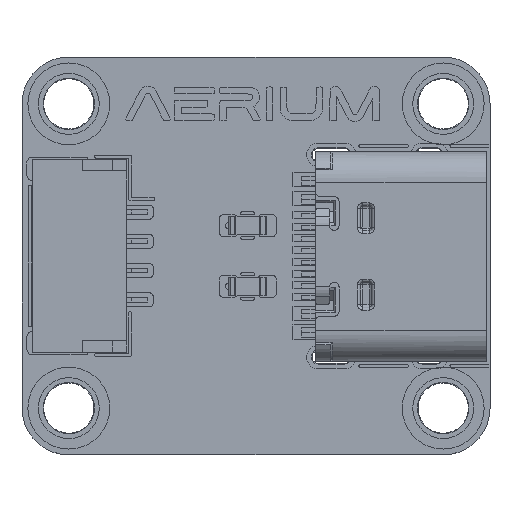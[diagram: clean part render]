
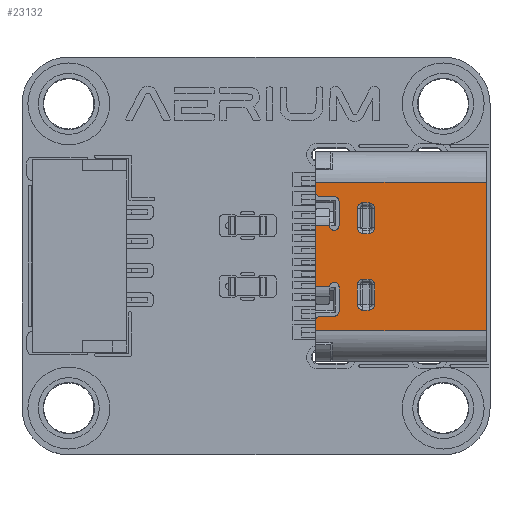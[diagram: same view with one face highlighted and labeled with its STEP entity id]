
A CAD part, top view. The second image highlights one B-rep face of the part: STEP entity #23132.
In plain terms, the highlighted planar face has unit normal (0, 0, 1).
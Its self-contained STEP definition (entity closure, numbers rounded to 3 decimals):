
#170=FACE_BOUND('',#3337,.T.);
#171=FACE_BOUND('',#3338,.T.);
#763=CIRCLE('',#24712,0.2);
#764=CIRCLE('',#24713,0.2);
#765=CIRCLE('',#24714,0.2);
#766=CIRCLE('',#24715,0.2);
#767=CIRCLE('',#24716,0.2);
#768=CIRCLE('',#24717,0.2);
#769=CIRCLE('',#24718,0.24);
#770=CIRCLE('',#24719,0.24);
#771=CIRCLE('',#24720,0.24);
#772=CIRCLE('',#24721,0.24);
#773=CIRCLE('',#24722,0.24);
#774=CIRCLE('',#24723,0.24);
#775=CIRCLE('',#24724,0.24);
#776=CIRCLE('',#24725,0.24);
#2078=FACE_OUTER_BOUND('',#3336,.T.);
#3336=EDGE_LOOP('',(#17137,#17138,#17139,#17140,#17141,#17142,#17143,#17144,
#17145,#17146,#17147,#17148,#17149,#17150,#17151,#17152,#17153,#17154));
#3337=EDGE_LOOP('',(#17155,#17156,#17157,#17158,#17159,#17160,#17161,#17162));
#3338=EDGE_LOOP('',(#17163,#17164,#17165,#17166,#17167,#17168,#17169,#17170));
#5002=LINE('',#34419,#7691);
#5081=LINE('',#34713,#7770);
#5083=LINE('',#34723,#7772);
#5084=LINE('',#34725,#7773);
#5085=LINE('',#34727,#7774);
#5086=LINE('',#34731,#7775);
#5087=LINE('',#34735,#7776);
#5088=LINE('',#34739,#7777);
#5089=LINE('',#34741,#7778);
#5090=LINE('',#34743,#7779);
#5091=LINE('',#34747,#7780);
#5092=LINE('',#34750,#7781);
#5093=LINE('',#34753,#7782);
#5094=LINE('',#34757,#7783);
#5095=LINE('',#34761,#7784);
#5096=LINE('',#34765,#7785);
#5097=LINE('',#34769,#7786);
#5098=LINE('',#34773,#7787);
#5099=LINE('',#34777,#7788);
#5100=LINE('',#34781,#7789);
#7691=VECTOR('',#27594,1.);
#7770=VECTOR('',#27859,1.);
#7772=VECTOR('',#27869,1.);
#7773=VECTOR('',#27870,1.);
#7774=VECTOR('',#27871,1.);
#7775=VECTOR('',#27874,1.);
#7776=VECTOR('',#27877,1.);
#7777=VECTOR('',#27880,1.);
#7778=VECTOR('',#27881,1.);
#7779=VECTOR('',#27882,1.);
#7780=VECTOR('',#27885,1.);
#7781=VECTOR('',#27888,1.);
#7782=VECTOR('',#27889,1.);
#7783=VECTOR('',#27892,1.);
#7784=VECTOR('',#27895,1.);
#7785=VECTOR('',#27898,1.);
#7786=VECTOR('',#27901,1.);
#7787=VECTOR('',#27904,1.);
#7788=VECTOR('',#27907,1.);
#7789=VECTOR('',#27910,1.);
#10205=VERTEX_POINT('',#34416);
#10206=VERTEX_POINT('',#34418);
#10320=VERTEX_POINT('',#34712);
#10323=VERTEX_POINT('',#34720);
#10324=VERTEX_POINT('',#34721);
#10325=VERTEX_POINT('',#34724);
#10326=VERTEX_POINT('',#34726);
#10327=VERTEX_POINT('',#34728);
#10328=VERTEX_POINT('',#34730);
#10329=VERTEX_POINT('',#34732);
#10330=VERTEX_POINT('',#34734);
#10331=VERTEX_POINT('',#34736);
#10332=VERTEX_POINT('',#34738);
#10333=VERTEX_POINT('',#34740);
#10334=VERTEX_POINT('',#34742);
#10335=VERTEX_POINT('',#34744);
#10336=VERTEX_POINT('',#34746);
#10337=VERTEX_POINT('',#34748);
#10338=VERTEX_POINT('',#34751);
#10339=VERTEX_POINT('',#34752);
#10340=VERTEX_POINT('',#34754);
#10341=VERTEX_POINT('',#34756);
#10342=VERTEX_POINT('',#34758);
#10343=VERTEX_POINT('',#34760);
#10344=VERTEX_POINT('',#34762);
#10345=VERTEX_POINT('',#34764);
#10346=VERTEX_POINT('',#34767);
#10347=VERTEX_POINT('',#34768);
#10348=VERTEX_POINT('',#34770);
#10349=VERTEX_POINT('',#34772);
#10350=VERTEX_POINT('',#34774);
#10351=VERTEX_POINT('',#34776);
#10352=VERTEX_POINT('',#34778);
#10353=VERTEX_POINT('',#34780);
#12818=EDGE_CURVE('',#10206,#10205,#5002,.T.);
#12963=EDGE_CURVE('',#10320,#10206,#5081,.T.);
#12967=EDGE_CURVE('',#10323,#10324,#763,.T.);
#12968=EDGE_CURVE('',#10324,#10320,#5083,.T.);
#12969=EDGE_CURVE('',#10205,#10325,#5084,.T.);
#12970=EDGE_CURVE('',#10325,#10326,#5085,.T.);
#12971=EDGE_CURVE('',#10326,#10327,#764,.T.);
#12972=EDGE_CURVE('',#10327,#10328,#5086,.T.);
#12973=EDGE_CURVE('',#10329,#10328,#765,.T.);
#12974=EDGE_CURVE('',#10329,#10330,#5087,.T.);
#12975=EDGE_CURVE('',#10331,#10330,#766,.T.);
#12976=EDGE_CURVE('',#10331,#10332,#5088,.T.);
#12977=EDGE_CURVE('',#10332,#10333,#5089,.T.);
#12978=EDGE_CURVE('',#10334,#10333,#5090,.T.);
#12979=EDGE_CURVE('',#10335,#10334,#767,.T.);
#12980=EDGE_CURVE('',#10336,#10335,#5091,.T.);
#12981=EDGE_CURVE('',#10337,#10336,#768,.T.);
#12982=EDGE_CURVE('',#10323,#10337,#5092,.T.);
#12983=EDGE_CURVE('',#10338,#10339,#5093,.T.);
#12984=EDGE_CURVE('',#10339,#10340,#769,.T.);
#12985=EDGE_CURVE('',#10340,#10341,#5094,.T.);
#12986=EDGE_CURVE('',#10341,#10342,#770,.T.);
#12987=EDGE_CURVE('',#10342,#10343,#5095,.T.);
#12988=EDGE_CURVE('',#10343,#10344,#771,.T.);
#12989=EDGE_CURVE('',#10344,#10345,#5096,.T.);
#12990=EDGE_CURVE('',#10338,#10345,#772,.T.);
#12991=EDGE_CURVE('',#10346,#10347,#5097,.T.);
#12992=EDGE_CURVE('',#10347,#10348,#773,.T.);
#12993=EDGE_CURVE('',#10348,#10349,#5098,.T.);
#12994=EDGE_CURVE('',#10349,#10350,#774,.T.);
#12995=EDGE_CURVE('',#10350,#10351,#5099,.T.);
#12996=EDGE_CURVE('',#10351,#10352,#775,.T.);
#12997=EDGE_CURVE('',#10352,#10353,#5100,.T.);
#12998=EDGE_CURVE('',#10346,#10353,#776,.T.);
#17137=ORIENTED_EDGE('',*,*,#12967,.T.);
#17138=ORIENTED_EDGE('',*,*,#12968,.T.);
#17139=ORIENTED_EDGE('',*,*,#12963,.T.);
#17140=ORIENTED_EDGE('',*,*,#12818,.T.);
#17141=ORIENTED_EDGE('',*,*,#12969,.T.);
#17142=ORIENTED_EDGE('',*,*,#12970,.T.);
#17143=ORIENTED_EDGE('',*,*,#12971,.T.);
#17144=ORIENTED_EDGE('',*,*,#12972,.T.);
#17145=ORIENTED_EDGE('',*,*,#12973,.F.);
#17146=ORIENTED_EDGE('',*,*,#12974,.T.);
#17147=ORIENTED_EDGE('',*,*,#12975,.F.);
#17148=ORIENTED_EDGE('',*,*,#12976,.T.);
#17149=ORIENTED_EDGE('',*,*,#12977,.T.);
#17150=ORIENTED_EDGE('',*,*,#12978,.F.);
#17151=ORIENTED_EDGE('',*,*,#12979,.F.);
#17152=ORIENTED_EDGE('',*,*,#12980,.F.);
#17153=ORIENTED_EDGE('',*,*,#12981,.F.);
#17154=ORIENTED_EDGE('',*,*,#12982,.F.);
#17155=ORIENTED_EDGE('',*,*,#12983,.T.);
#17156=ORIENTED_EDGE('',*,*,#12984,.T.);
#17157=ORIENTED_EDGE('',*,*,#12985,.T.);
#17158=ORIENTED_EDGE('',*,*,#12986,.T.);
#17159=ORIENTED_EDGE('',*,*,#12987,.T.);
#17160=ORIENTED_EDGE('',*,*,#12988,.T.);
#17161=ORIENTED_EDGE('',*,*,#12989,.T.);
#17162=ORIENTED_EDGE('',*,*,#12990,.F.);
#17163=ORIENTED_EDGE('',*,*,#12991,.T.);
#17164=ORIENTED_EDGE('',*,*,#12992,.T.);
#17165=ORIENTED_EDGE('',*,*,#12993,.T.);
#17166=ORIENTED_EDGE('',*,*,#12994,.T.);
#17167=ORIENTED_EDGE('',*,*,#12995,.T.);
#17168=ORIENTED_EDGE('',*,*,#12996,.T.);
#17169=ORIENTED_EDGE('',*,*,#12997,.T.);
#17170=ORIENTED_EDGE('',*,*,#12998,.F.);
#22217=PLANE('',#24711);
#23132=ADVANCED_FACE('',(#2078,#170,#171),#22217,.T.);
#24711=AXIS2_PLACEMENT_3D('',#34719,#27865,#27866);
#24712=AXIS2_PLACEMENT_3D('',#34722,#27867,#27868);
#24713=AXIS2_PLACEMENT_3D('',#34729,#27872,#27873);
#24714=AXIS2_PLACEMENT_3D('',#34733,#27875,#27876);
#24715=AXIS2_PLACEMENT_3D('',#34737,#27878,#27879);
#24716=AXIS2_PLACEMENT_3D('',#34745,#27883,#27884);
#24717=AXIS2_PLACEMENT_3D('',#34749,#27886,#27887);
#24718=AXIS2_PLACEMENT_3D('',#34755,#27890,#27891);
#24719=AXIS2_PLACEMENT_3D('',#34759,#27893,#27894);
#24720=AXIS2_PLACEMENT_3D('',#34763,#27896,#27897);
#24721=AXIS2_PLACEMENT_3D('',#34766,#27899,#27900);
#24722=AXIS2_PLACEMENT_3D('',#34771,#27902,#27903);
#24723=AXIS2_PLACEMENT_3D('',#34775,#27905,#27906);
#24724=AXIS2_PLACEMENT_3D('',#34779,#27908,#27909);
#24725=AXIS2_PLACEMENT_3D('',#34782,#27911,#27912);
#27594=DIRECTION('',(1.,0.,0.));
#27859=DIRECTION('',(0.,-1.,0.));
#27865=DIRECTION('center_axis',(0.,0.,1.));
#27866=DIRECTION('ref_axis',(1.,0.,0.));
#27867=DIRECTION('center_axis',(0.,0.,1.));
#27868=DIRECTION('ref_axis',(1.,0.,0.));
#27869=DIRECTION('',(-1.,0.,0.));
#27870=DIRECTION('',(0.,1.,0.));
#27871=DIRECTION('',(-1.,0.,0.));
#27872=DIRECTION('center_axis',(0.,0.,1.));
#27873=DIRECTION('ref_axis',(1.,0.,0.));
#27874=DIRECTION('',(0.,-1.,0.));
#27875=DIRECTION('center_axis',(0.,0.,1.));
#27876=DIRECTION('ref_axis',(1.,0.,0.));
#27877=DIRECTION('',(-1.,0.,0.));
#27878=DIRECTION('center_axis',(0.,0.,1.));
#27879=DIRECTION('ref_axis',(1.,0.,0.));
#27880=DIRECTION('',(0.,1.,0.));
#27881=DIRECTION('',(-1.,0.,0.));
#27882=DIRECTION('',(0.,1.,0.));
#27883=DIRECTION('center_axis',(0.,0.,1.));
#27884=DIRECTION('ref_axis',(1.,0.,0.));
#27885=DIRECTION('',(1.,0.,0.));
#27886=DIRECTION('center_axis',(0.,0.,1.));
#27887=DIRECTION('ref_axis',(1.,0.,0.));
#27888=DIRECTION('',(0.,-1.,0.));
#27889=DIRECTION('',(0.,1.,0.));
#27890=DIRECTION('center_axis',(0.,0.,-1.));
#27891=DIRECTION('ref_axis',(-1.,0.,0.));
#27892=DIRECTION('',(1.,0.,0.));
#27893=DIRECTION('center_axis',(0.,0.,-1.));
#27894=DIRECTION('ref_axis',(0.,1.,0.));
#27895=DIRECTION('',(0.,-1.,0.));
#27896=DIRECTION('center_axis',(0.,0.,-1.));
#27897=DIRECTION('ref_axis',(1.,0.,0.));
#27898=DIRECTION('',(-1.,0.,0.));
#27899=DIRECTION('center_axis',(0.,0.,1.));
#27900=DIRECTION('ref_axis',(-1.,0.,0.));
#27901=DIRECTION('',(1.,0.,0.));
#27902=DIRECTION('center_axis',(0.,0.,-1.));
#27903=DIRECTION('ref_axis',(0.,1.,0.));
#27904=DIRECTION('',(0.,-1.,0.));
#27905=DIRECTION('center_axis',(0.,0.,-1.));
#27906=DIRECTION('ref_axis',(1.,0.,0.));
#27907=DIRECTION('',(-1.,0.,0.));
#27908=DIRECTION('center_axis',(0.,0.,-1.));
#27909=DIRECTION('ref_axis',(0.,-1.,0.));
#27910=DIRECTION('',(0.,1.,0.));
#27911=DIRECTION('center_axis',(0.,0.,1.));
#27912=DIRECTION('ref_axis',(0.,1.,0.));
#34416=CARTESIAN_POINT('',(7.65,0.,3.16));
#34418=CARTESIAN_POINT('',(1.3,0.,3.16));
#34419=CARTESIAN_POINT('',(1.3,0.,3.16));
#34712=CARTESIAN_POINT('',(1.3,7.3,3.16));
#34713=CARTESIAN_POINT('',(1.3,7.3,3.16));
#34719=CARTESIAN_POINT('Origin',(4.475,3.973,3.16));
#34720=CARTESIAN_POINT('',(1.92,7.1,3.16));
#34721=CARTESIAN_POINT('',(1.72,7.3,3.16));
#34722=CARTESIAN_POINT('Origin',(1.72,7.1,3.16));
#34723=CARTESIAN_POINT('',(1.72,7.3,3.16));
#34724=CARTESIAN_POINT('',(7.65,7.3,3.16));
#34725=CARTESIAN_POINT('',(7.65,0.,3.16));
#34726=CARTESIAN_POINT('',(7.23,7.3,3.16));
#34727=CARTESIAN_POINT('',(7.65,7.3,3.16));
#34728=CARTESIAN_POINT('',(7.03,7.1,3.16));
#34729=CARTESIAN_POINT('Origin',(7.23,7.1,3.16));
#34730=CARTESIAN_POINT('',(7.03,6.5,3.16));
#34731=CARTESIAN_POINT('',(7.03,7.1,3.16));
#34732=CARTESIAN_POINT('',(6.83,6.3,3.16));
#34733=CARTESIAN_POINT('Origin',(6.83,6.5,3.16));
#34734=CARTESIAN_POINT('',(5.78,6.3,3.16));
#34735=CARTESIAN_POINT('',(6.83,6.3,3.16));
#34736=CARTESIAN_POINT('',(5.78,6.7,3.16));
#34737=CARTESIAN_POINT('Origin',(5.78,6.5,3.16));
#34738=CARTESIAN_POINT('',(5.78,7.3,3.16));
#34739=CARTESIAN_POINT('',(5.78,6.7,3.16));
#34740=CARTESIAN_POINT('',(3.17,7.3,3.16));
#34741=CARTESIAN_POINT('',(5.78,7.3,3.16));
#34742=CARTESIAN_POINT('',(3.17,6.7,3.16));
#34743=CARTESIAN_POINT('',(3.17,6.7,3.16));
#34744=CARTESIAN_POINT('',(3.17,6.3,3.16));
#34745=CARTESIAN_POINT('Origin',(3.17,6.5,3.16));
#34746=CARTESIAN_POINT('',(2.12,6.3,3.16));
#34747=CARTESIAN_POINT('',(2.12,6.3,3.16));
#34748=CARTESIAN_POINT('',(1.92,6.5,3.16));
#34749=CARTESIAN_POINT('Origin',(2.12,6.5,3.16));
#34750=CARTESIAN_POINT('',(1.92,7.1,3.16));
#34751=CARTESIAN_POINT('',(5.45,5.02,3.16));
#34752=CARTESIAN_POINT('',(5.45,5.28,3.16));
#34753=CARTESIAN_POINT('',(5.45,4.9,3.16));
#34754=CARTESIAN_POINT('',(5.69,5.52,3.16));
#34755=CARTESIAN_POINT('Origin',(5.69,5.28,3.16));
#34756=CARTESIAN_POINT('',(6.53,5.52,3.16));
#34757=CARTESIAN_POINT('',(5.57,5.52,3.16));
#34758=CARTESIAN_POINT('',(6.77,5.28,3.16));
#34759=CARTESIAN_POINT('Origin',(6.53,5.28,3.16));
#34760=CARTESIAN_POINT('',(6.77,5.02,3.16));
#34761=CARTESIAN_POINT('',(6.77,5.4,3.16));
#34762=CARTESIAN_POINT('',(6.53,4.78,3.16));
#34763=CARTESIAN_POINT('Origin',(6.53,5.02,3.16));
#34764=CARTESIAN_POINT('',(5.69,4.78,3.16));
#34765=CARTESIAN_POINT('',(6.65,4.78,3.16));
#34766=CARTESIAN_POINT('Origin',(5.69,5.02,3.16));
#34767=CARTESIAN_POINT('',(2.42,5.52,3.16));
#34768=CARTESIAN_POINT('',(3.26,5.52,3.16));
#34769=CARTESIAN_POINT('',(2.3,5.52,3.16));
#34770=CARTESIAN_POINT('',(3.5,5.28,3.16));
#34771=CARTESIAN_POINT('Origin',(3.26,5.28,3.16));
#34772=CARTESIAN_POINT('',(3.5,5.02,3.16));
#34773=CARTESIAN_POINT('',(3.5,5.4,3.16));
#34774=CARTESIAN_POINT('',(3.26,4.78,3.16));
#34775=CARTESIAN_POINT('Origin',(3.26,5.02,3.16));
#34776=CARTESIAN_POINT('',(2.42,4.78,3.16));
#34777=CARTESIAN_POINT('',(3.38,4.78,3.16));
#34778=CARTESIAN_POINT('',(2.18,5.02,3.16));
#34779=CARTESIAN_POINT('Origin',(2.42,5.02,3.16));
#34780=CARTESIAN_POINT('',(2.18,5.28,3.16));
#34781=CARTESIAN_POINT('',(2.18,4.9,3.16));
#34782=CARTESIAN_POINT('Origin',(2.42,5.28,3.16));
